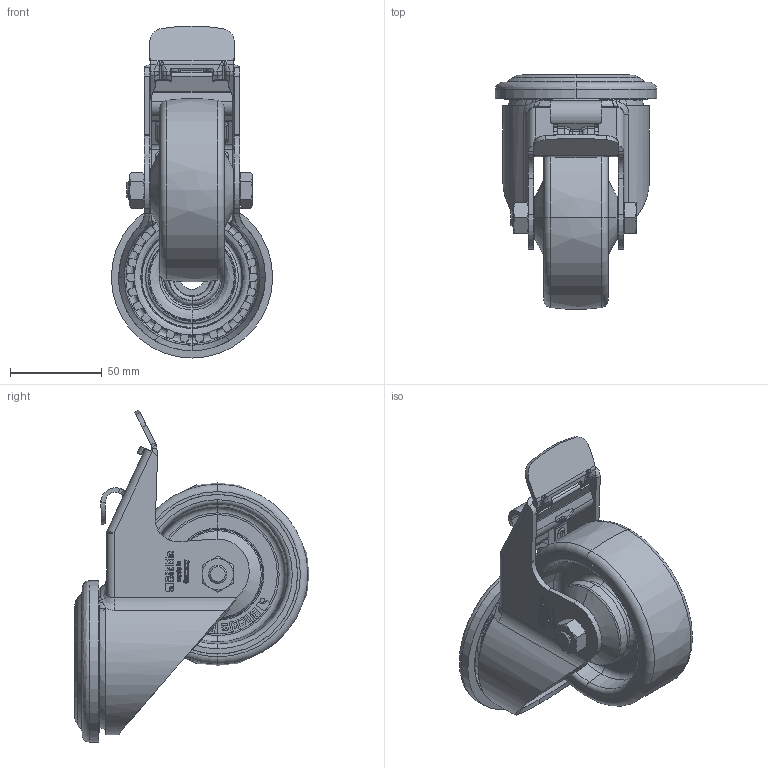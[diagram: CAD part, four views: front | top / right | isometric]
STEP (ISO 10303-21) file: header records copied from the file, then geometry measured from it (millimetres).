
FILE_DESCRIPTION (( 'STEP AP214' ), '1' );
FILE_NAME ('LKR-POTH_100K-FI_603217-214.step', '2022-01-13T06:38:03', ( '' ), ( '' ), 'SwSTEP 2.0', 'SolidWorks 2018', '' );
FILE_SCHEMA (( 'AUTOMOTIVE_DESIGN' ));
Length unit declared in the file: millimetre
Products named in the file (5): GH-LKR-100x45-088-13-FIH_10x46_G16_3D; POTH_100_10K_G16_3D; POTH_3D_G16_POTH_100_10K_253609; LKR-POTH_100K-FI_603217-214; GH-LKR_80-125_GH-LKR-100x45-088-13-FIH_10x46
Assembly tree (4 placements, depth 3):
  LKR-POTH_100K-FI_603217-214
    GH-LKR_80-125_GH-LKR-100x45-088-13-FIH_10x46
      GH-LKR-100x45-088-13-FIH_10x46_G16_3D
    POTH_3D_G16_POTH_100_10K_253609
      POTH_100_10K_G16_3D
Bounding box: 88 x 127.89 x 181.06 mm (x, y, z)
Volume: 319657.7 mm3; surface area: 126369.4 mm2
Topology: 2 solids, 7 shells, 2966 faces, 8002 edges, 5193 vertices
Faces by surface type: plane 1220, bspline 1052, cylinder 454, cone 140, torus 100
Entity records: 119287 total; most frequent: CARTESIAN_POINT 48293, ORIENTED_EDGE 15960, DIRECTION 10432, EDGE_CURVE 7980, VERTEX_POINT 5193, VECTOR 3928, LINE 3928, AXIS2_PLACEMENT_3D 3252
